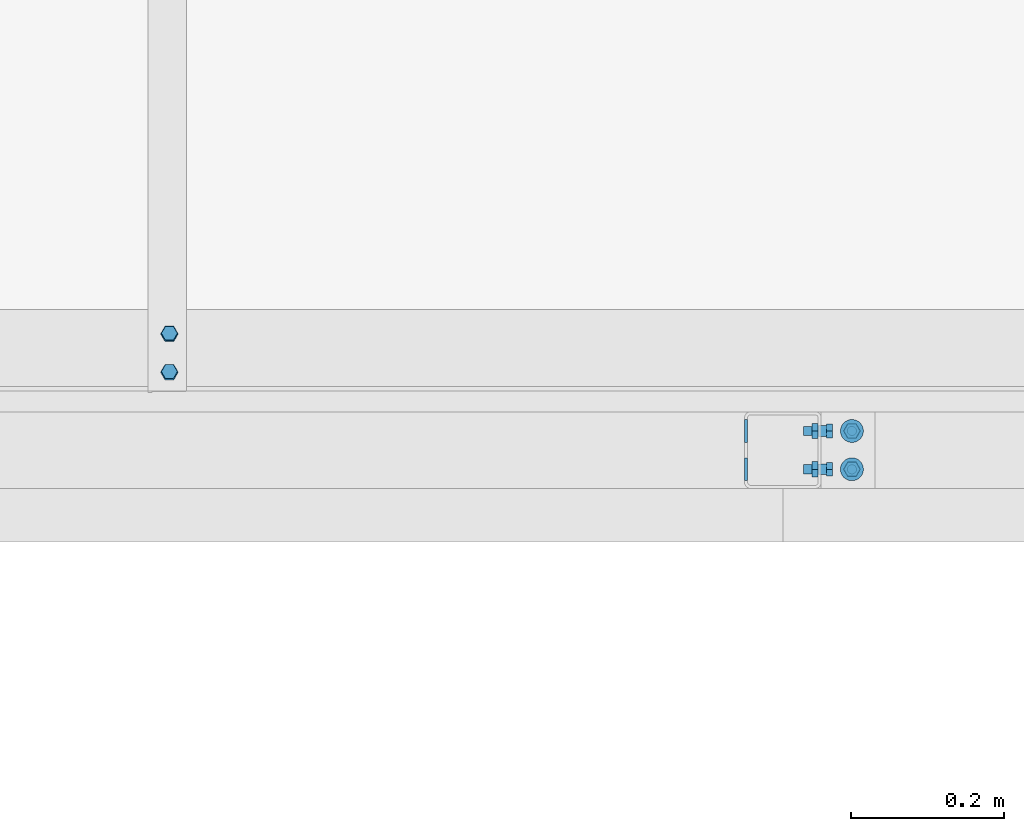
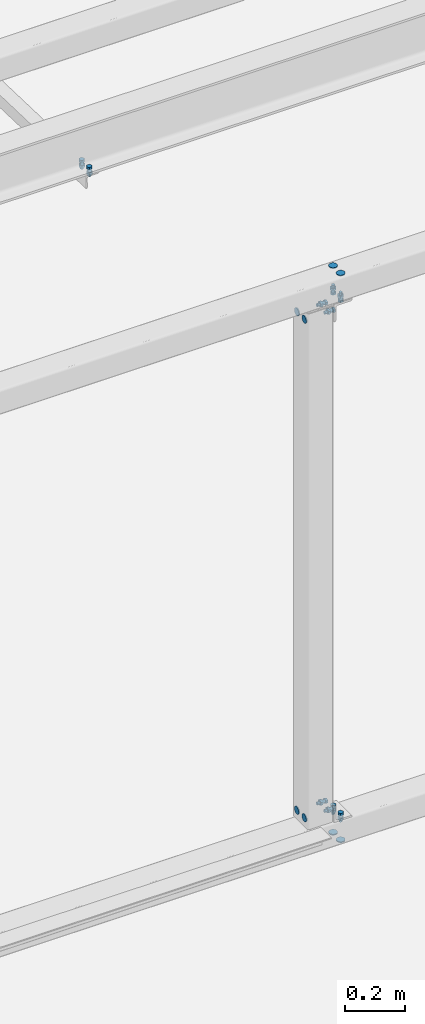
# One storey, part 209 of 362: 9 mechanical fasteners.
"""IFC2X3 building model written with IfcOpenShell, lengths in millimetres."""

from ifc_helpers import new_model, si_unit, frame, origin_with_axes, origin_2d_with_axis, place, context, subcontext, project, spatial, polyline, circle, outline, extrude, source, transform, mapped, material, type_object, element, save


model = new_model("IFC2X3")

# Units and contexts
model_context = context("Model", 3, precision=1e-05, world=origin_with_axes())
body_context = subcontext(model_context, "Body", "Model", "MODEL_VIEW")
ifc_project = project(units=[si_unit("LENGTHUNIT", "METRE", prefix="MILLI"), si_unit("AREAUNIT", "SQUARE_METRE"), si_unit("VOLUMEUNIT", "CUBIC_METRE"), si_unit("MASSUNIT", "GRAM", prefix="KILO"), si_unit("TIMEUNIT", "SECOND"), si_unit("PLANEANGLEUNIT", "RADIAN"), si_unit("SOLIDANGLEUNIT", "STERADIAN"), si_unit("THERMODYNAMICTEMPERATUREUNIT", "DEGREE_CELSIUS"), si_unit("LUMINOUSINTENSITYUNIT", "LUMEN")], contexts=[model_context])

# Site, building, storey
site_placement = place(None, origin_with_axes())
site = spatial("IfcSite", under=ifc_project, at=site_placement, Name="Undefined", CompositionType="ELEMENT")
building_placement = place(site_placement, origin_with_axes())
building = spatial("IfcBuilding", under=site, at=building_placement, Name="Undefined", CompositionType="ELEMENT")
storey_placement = place(building_placement, origin_with_axes())
storey = spatial("IfcBuildingStorey", under=building, at=storey_placement, Name="Undefined", CompositionType="ELEMENT", Elevation=0.0)

# Mechanical fasteners
ifc_material_1 = material(Name="6.8")
mechanical_fastener_type = type_object("IfcMechanicalFastenerType", Name="Bolt assembly")
shared_shape_1 = source(origin_with_axes(), body_context, "Body", "SweptSolid", [
    extrude(circle(Radius=15.0, at=origin_2d_with_axis()), frame((0.0, 0.0, 0.0), z_axis=(0.0, 1.0, 0.0), x_axis=(1.0, 0.0, 0.0)), (0.0, 0.0, 1.0), 4.1),
])
mechanical_fastener_1_placement = place(storey_placement, frame((7080.0025831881, -130.000008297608, 5040.0), z_axis=(0.0, -1.0, 0.0), x_axis=(0.0, 0.0, -1.0)))
element("IfcMechanicalFastener", 1, at=mechanical_fastener_1_placement, inside=storey, type_object=mechanical_fastener_type, material=ifc_material_1, Name="Bolt assembly", NominalDiameter=30.0, NominalLength=4.0, context=body_context, shape_type="MappedRepresentation", body=[
    mapped(shared_shape_1, transform((0.0, 0.0, 25.0))),
    mapped(shared_shape_1, transform((0.0, 0.0, -25.0))),
])
mechanical_fastener_2_placement = place(storey_placement, frame((7080.0025831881, -130.000008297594, 7060.0), z_axis=(0.0, 1.0, 0.0), x_axis=(0.0, 0.0, 1.0)))
element("IfcMechanicalFastener", 2, at=mechanical_fastener_2_placement, inside=storey, type_object=mechanical_fastener_type, material=ifc_material_1, Name="Bolt assembly", NominalDiameter=30.0, NominalLength=4.0, context=body_context, shape_type="MappedRepresentation", body=[
    mapped(shared_shape_1, transform((0.0, 0.0, -25.0))),
    mapped(shared_shape_1, transform((0.0, 0.0, 25.0))),
])
ifc_material_2 = material(Name="8.8-SB-ZINGUE")
shared_shape_2 = source(origin_with_axes(), body_context, "Body", "SweptSolid", [
    extrude(circle(Radius=7.0, at=origin_2d_with_axis()), frame((0.0, -0.101674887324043, 0.0), z_axis=(0.0, 1.0, 0.0), x_axis=(1.0, 0.0, 0.0)), (0.0, 0.0, 1.0), 4.1),
    extrude(circle(Radius=7.0, at=origin_2d_with_axis()), frame((0.0, -6.90167467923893, 0.0), z_axis=(0.0, 1.0, 0.0), x_axis=(1.0, 0.0, 0.0)), (0.0, 0.0, 1.0), 7.0),
    extrude(outline(polyline([(10.39230484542, 0.0), (5.19615242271, 9.00000000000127), (-5.19615242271, 9.00000000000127), (-10.39230484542, 0.0), (-5.19615242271, -9.00000000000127), (5.19615242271, -9.00000000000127), (10.39230484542, 0.0)])), frame((0.0, -14.9216746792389, 0.0), z_axis=(0.0, 1.0, 0.0), x_axis=(1.0, 0.0, 0.0)), (0.0, 0.0, 1.0), 7.92),
    extrude(circle(Radius=6.0, at=origin_2d_with_axis()), frame((0.0, -7.00167467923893, 0.0), z_axis=(0.0, 1.0, 0.0), x_axis=(1.0, 0.0, 0.0)), (0.0, 0.0, 1.0), 30.0),
    extrude(outline(polyline([(11.5008173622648, 0.0), (5.7504086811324, 9.96000000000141), (-5.7504086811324, 9.96000000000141), (-11.5008173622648, 0.0), (-5.7504086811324, -9.96000000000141), (5.7504086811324, -9.96000000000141), (11.5008173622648, 0.0)])), frame((0.0, 3.99832511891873, 0.0), z_axis=(0.0, 1.0, 0.0), x_axis=(1.0, 0.0, 0.0)), (0.0, 0.0, 1.0), 7.92),
])
mechanical_fastener_3_placement = place(storey_placement, frame((7180.00090830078, -130.000006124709, 5040.00000004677), z_axis=(0.0, 1.0, 0.0), x_axis=(-5.58310001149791e-05, -3.00000033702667e-09, -0.99999999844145)))
element("IfcMechanicalFastener", 3, at=mechanical_fastener_3_placement, inside=storey, type_object=mechanical_fastener_type, material=ifc_material_2, Name="Bolt assembly", NominalDiameter=12.0, NominalLength=30.0, context=body_context, shape_type="MappedRepresentation", body=[
    mapped(shared_shape_2, transform((0.0, 0.0, 25.0))),
    mapped(shared_shape_2, transform((0.0, 0.0, -25.0))),
])
mechanical_fastener_4_placement = place(storey_placement, frame((7180.00090829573, -130.000006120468, 7059.99999995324), z_axis=(0.0, -1.0, 0.0), x_axis=(-5.58310001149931e-05, -3.00000033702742e-09, 0.99999999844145)))
element("IfcMechanicalFastener", 4, at=mechanical_fastener_4_placement, inside=storey, type_object=mechanical_fastener_type, material=ifc_material_2, Name="Bolt assembly", NominalDiameter=12.0, NominalLength=30.0, context=body_context, shape_type="MappedRepresentation", body=[
    mapped(shared_shape_2, transform((0.0, 0.0, -25.0))),
    mapped(shared_shape_2, transform((0.0, 0.0, 25.0))),
])
shared_shape_3 = source(origin_with_axes(), body_context, "Body", "SweptSolid", [
    extrude(circle(Radius=15.0, at=origin_2d_with_axis()), frame((0.0, -3.99999923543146, 0.0), z_axis=(0.0, 1.0, 0.0), x_axis=(1.0, 0.0, 0.0)), (0.0, 0.0, 1.0), 4.1),
])
mechanical_fastener_5_placement = place(storey_placement, frame((7220.00258271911, -130.000008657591, 4900.0), z_axis=(0.0, -1.0, 0.0), x_axis=(-1.0, 0.0, 0.0)))
element("IfcMechanicalFastener", 5, at=mechanical_fastener_5_placement, inside=storey, type_object=mechanical_fastener_type, material=ifc_material_1, Name="Bolt assembly", NominalDiameter=30.0, NominalLength=4.0, context=body_context, shape_type="MappedRepresentation", body=[
    mapped(shared_shape_3, transform((0.0, 0.0, 25.0))),
    mapped(shared_shape_3, transform((0.0, 0.0, -25.0))),
])
mechanical_fastener_6_placement = place(storey_placement, frame((7220.00258271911, -130.000008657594, 7200.0), z_axis=(0.0, 1.0, 0.0), x_axis=(-1.0, 0.0, 0.0)))
element("IfcMechanicalFastener", 6, at=mechanical_fastener_6_placement, inside=storey, type_object=mechanical_fastener_type, material=ifc_material_1, Name="Bolt assembly", NominalDiameter=30.0, NominalLength=4.0, context=body_context, shape_type="MappedRepresentation", body=[
    mapped(shared_shape_3, transform((0.0, 0.0, -25.0))),
    mapped(shared_shape_3, transform((0.0, 0.0, 25.0))),
])
shared_shape_4 = source(origin_with_axes(), body_context, "Body", "SweptSolid", [
    extrude(circle(Radius=7.0, at=origin_2d_with_axis()), frame((0.0, -0.100011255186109, 0.0), z_axis=(0.0, 1.0, 0.0), x_axis=(1.0, 0.0, 0.0)), (0.0, 0.0, 1.0), 4.1),
    extrude(circle(Radius=7.0, at=origin_2d_with_axis()), frame((0.0, -6.9, 0.0), z_axis=(0.0, 1.0, 0.0), x_axis=(1.0, 0.0, 0.0)), (0.0, 0.0, 1.0), 7.0),
    extrude(outline(polyline([(10.39230484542, 0.0), (5.19615242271, 9.00000000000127), (-5.19615242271, 9.00000000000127), (-10.39230484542, 0.0), (-5.19615242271, -9.00000000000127), (5.19615242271, -9.00000000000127), (10.39230484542, 0.0)])), frame((0.0, -14.92, 0.0), z_axis=(0.0, 1.0, 0.0), x_axis=(1.0, 0.0, 0.0)), (0.0, 0.0, 1.0), 7.92),
    extrude(circle(Radius=6.0, at=origin_2d_with_axis()), frame((0.0, -7.0, 0.0), z_axis=(0.0, 1.0, 0.0), x_axis=(1.0, 0.0, 0.0)), (0.0, 0.0, 1.0), 30.0),
    extrude(outline(polyline([(11.5008173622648, 0.0), (5.7504086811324, 9.96000000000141), (-5.7504086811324, 9.96000000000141), (-11.5008173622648, 0.0), (-5.7504086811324, -9.96000000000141), (5.7504086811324, -9.96000000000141), (11.5008173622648, 0.0)])), frame((0.0, 4.00000005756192, 0.0), z_axis=(0.0, 1.0, 0.0), x_axis=(1.0, 0.0, 0.0)), (0.0, 0.0, 1.0), 7.92),
])
mechanical_fastener_7_placement = place(storey_placement, frame((7220.00258321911, -130.000007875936, 5000.0), z_axis=(0.0, -1.0, 0.0), x_axis=(-1.0, 0.0, 0.0)))
element("IfcMechanicalFastener", 7, at=mechanical_fastener_7_placement, inside=storey, type_object=mechanical_fastener_type, material=ifc_material_2, Name="Bolt assembly", NominalDiameter=12.0, NominalLength=30.0, context=body_context, shape_type="MappedRepresentation", body=[
    mapped(shared_shape_4, transform((0.0, 0.0, 25.0))),
    mapped(shared_shape_4, transform((0.0, 0.0, -25.0))),
])
mechanical_fastener_8_placement = place(storey_placement, frame((7220.00258321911, -130.00000787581, 7100.0), z_axis=(0.0, 1.0, 0.0), x_axis=(-1.0, 0.0, 0.0)))
element("IfcMechanicalFastener", 8, at=mechanical_fastener_8_placement, inside=storey, type_object=mechanical_fastener_type, material=ifc_material_2, Name="Bolt assembly", NominalDiameter=12.0, NominalLength=30.0, context=body_context, shape_type="MappedRepresentation", body=[
    mapped(shared_shape_4, transform((0.0, 0.0, -25.0))),
    mapped(shared_shape_4, transform((0.0, 0.0, 25.0))),
])
shared_shape_5 = source(origin_with_axes(), body_context, "Body", "SweptSolid", [
    extrude(circle(Radius=7.0, at=origin_2d_with_axis()), frame((0.0, -8.39309251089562, 0.0), z_axis=(0.0, 1.0, 0.0), x_axis=(1.0, 0.0, 0.0)), (0.0, 0.0, 1.0), 8.5),
    extrude(circle(Radius=7.0, at=origin_2d_with_axis()), frame((0.0, -0.100011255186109, 0.0), z_axis=(0.0, 1.0, 0.0), x_axis=(1.0, 0.0, 0.0)), (0.0, 0.0, 1.0), 5.1),
    extrude(outline(polyline([(10.39230484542, 0.0), (5.19615242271, 9.00000000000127), (-5.19615242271, 9.00000000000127), (-10.39230484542, 0.0), (-5.19615242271, -9.00000000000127), (5.19615242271, -9.00000000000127), (10.39230484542, 0.0)])), frame((0.0, -16.4130925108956, 0.0), z_axis=(0.0, 1.0, 0.0), x_axis=(1.0, 0.0, 0.0)), (0.0, 0.0, 1.0), 7.92),
    extrude(circle(Radius=6.0, at=origin_2d_with_axis()), frame((0.0, -8.49309251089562, 0.0), z_axis=(0.0, 1.0, 0.0), x_axis=(1.0, 0.0, 0.0)), (0.0, 0.0, 1.0), 30.0),
    extrude(outline(polyline([(11.5008173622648, 0.0), (5.7504086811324, 9.96000000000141), (-5.7504086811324, 9.96000000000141), (-11.5008173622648, 0.0), (-5.7504086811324, -9.96000000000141), (5.7504086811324, -9.96000000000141), (11.5008173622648, 0.0)])), frame((0.0, 5.0, 0.0), z_axis=(0.0, 1.0, 0.0), x_axis=(1.0, 0.0, 0.0)), (0.0, 0.0, 1.0), 7.92),
])
mechanical_fastener_9_placement = place(storey_placement, frame((6330.00001266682, -3.14090508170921, 7850.00687397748), z_axis=(0.0, -0.999506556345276, 0.031410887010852), x_axis=(-1.0, 0.0, 0.0)))
element("IfcMechanicalFastener", 9, at=mechanical_fastener_9_placement, inside=storey, type_object=mechanical_fastener_type, material=ifc_material_2, Name="Bolt assembly", NominalDiameter=12.0, NominalLength=30.0, context=body_context, shape_type="MappedRepresentation", body=[
    mapped(shared_shape_5, transform((0.0, 0.0, -25.0))),
    mapped(shared_shape_5, transform((0.0, 0.0, 25.0))),
])

save(model, "model.ifc")
